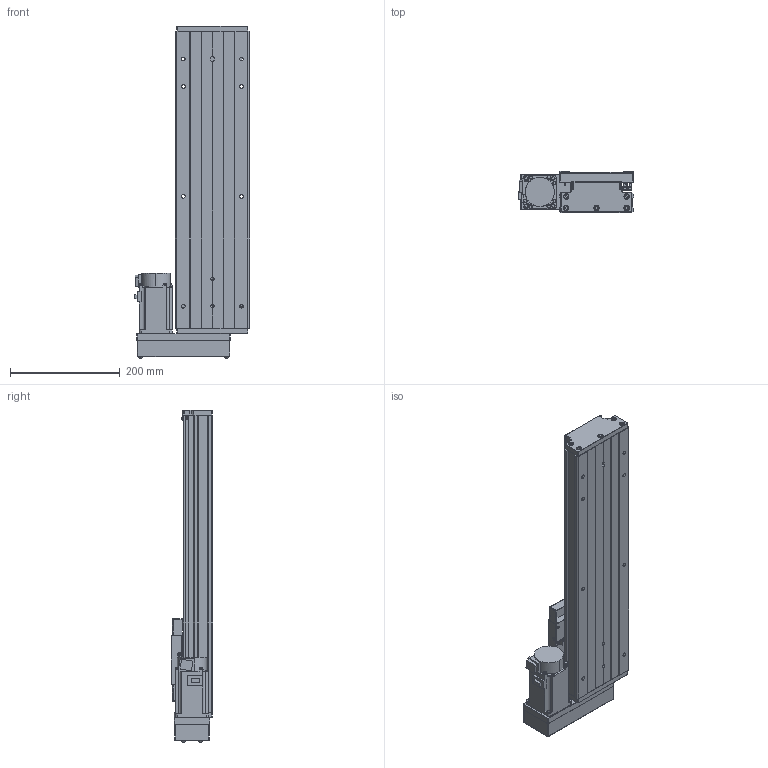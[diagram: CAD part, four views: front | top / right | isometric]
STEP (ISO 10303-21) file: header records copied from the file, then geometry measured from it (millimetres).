
FILE_DESCRIPTION (( 'STEP AP203' ), '1' );
FILE_NAME ('CTH130-350-BL-M40-C4.step', '2023-06-30T02:37:59', ( '微软用户' ), ( '微软中国' ), 'SwSTEP 2.0', 'SolidWorks 2020', '' );
FILE_SCHEMA (( 'CONFIG_CONTROL_DESIGN' ));
Length unit declared in the file: millimetre
Products named in the file (20): GTH14-005; GBT77-2000 M3×3; GTH14-033; GB1155-6X6; CTH130-031; CTH130-350-BL-M40-C4; GBT70.1 M5℅16; GBT 70.2-M3¡Á5_M3¡Á6; GTH14-001_350; CTHA60-017; す晦芛蹟隊 M3℅5; CTH130-002_GTH14-002; EE_SX911P_R; HG-KN43J-S100; GB T308.1-2013-6.35; CTHA60-016; GBT 70.2-M4¡Á35_M4¡Á35; GTH14-004; GBT 70.1-M3℅5; GTH14-015-2_CTHA86-015-2
Assembly tree (60 placements, depth 2):
  CTH130-350-BL-M40-C4
    GTH14-001_350
    CTH130-002_GTH14-002
    GB T308.1-2013-6.35  x2
    GTH14-004
    GTH14-005
    GB1155-6X6  x2
    GBT70.1 M5℅16  x10
    CTHA60-017  x3
    EE_SX911P_R  x3
    CTHA60-016  x2
    GBT 70.1-M3℅5  x6
    GBT77-2000 M3×3  x6
    CTH130-031
    GBT 70.2-M3¡Á5_M3¡Á6  x8
    す晦芛蹟隊 M3℅5  x6
    HG-KN43J-S100
    GBT 70.2-M4¡Á35_M4¡Á35  x4
    GTH14-015-2_CTHA86-015-2
    GTH14-033
Bounding box: 209.3 x 76 x 604.2 mm (x, y, z)
Volume: 3428023.5 mm3; surface area: 627618.8 mm2
Topology: 63 solids, 63 shells, 2425 faces, 5773 edges, 3569 vertices
Faces by surface type: plane 1308, cylinder 638, cone 299, torus 124, sphere 36, bspline 20
Entity records: 43616 total; most frequent: CARTESIAN_POINT 9797, DIRECTION 6342, ORIENTED_EDGE 6252, EDGE_CURVE 3126, AXIS2_PLACEMENT_3D 2158, LINE 2026, VECTOR 2026, VERTEX_POINT 1979
